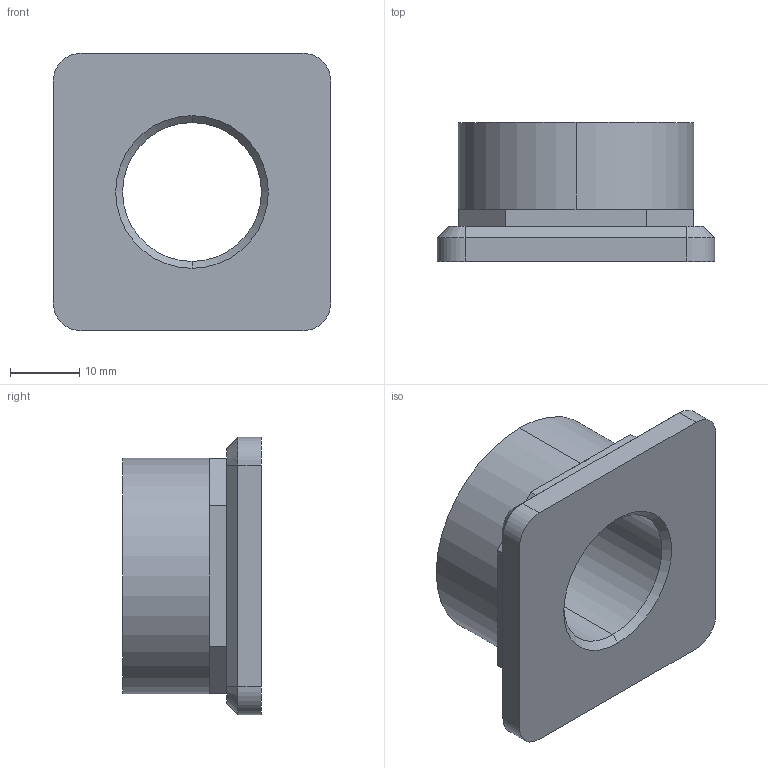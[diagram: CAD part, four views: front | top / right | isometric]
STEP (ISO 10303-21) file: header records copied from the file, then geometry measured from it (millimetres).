
FILE_DESCRIPTION (( 'STEP AP203' ), '1' );
FILE_NAME ('34670.W0043.step', '2017-06-26T08:13:35', ( 'User' ), ( '' ), 'SwSTEP 2.0', 'SolidWorks 2009', '' );
FILE_SCHEMA (( 'CONFIG_CONTROL_DESIGN' ));
Length unit declared in the file: millimetre
Products named in the file (1): 34670.W0043
Bounding box: 40 x 20 x 40 mm (x, y, z)
Volume: 15399.3 mm3; surface area: 5984 mm2
Topology: 1 solids, 1 shells, 39 faces, 90 edges, 54 vertices
Faces by surface type: plane 23, cone 8, cylinder 8
Entity records: 1167 total; most frequent: DIRECTION 196, CARTESIAN_POINT 184, ORIENTED_EDGE 180, EDGE_CURVE 90, AXIS2_PLACEMENT_3D 66, VECTOR 64, LINE 64, VERTEX_POINT 54
